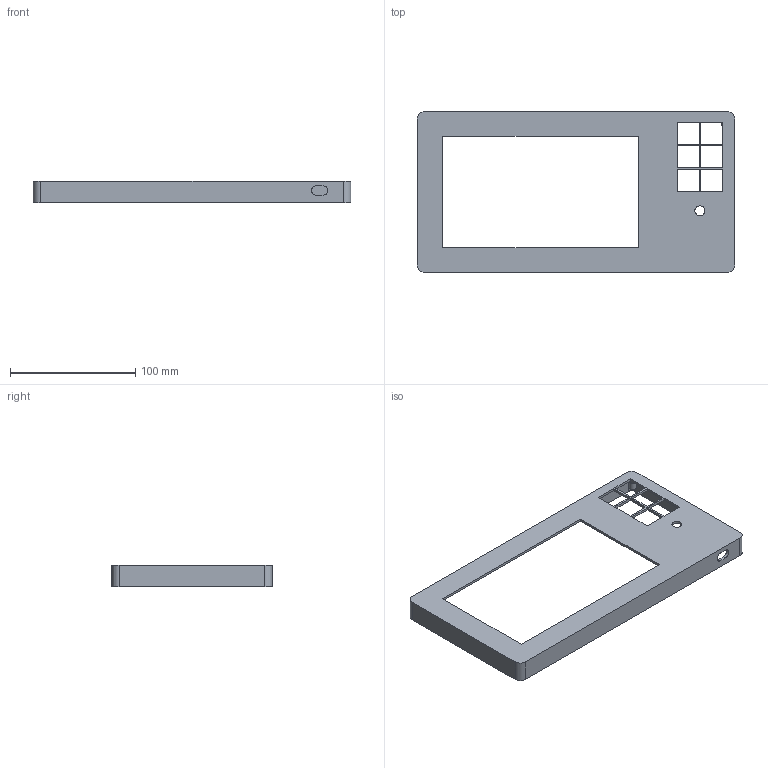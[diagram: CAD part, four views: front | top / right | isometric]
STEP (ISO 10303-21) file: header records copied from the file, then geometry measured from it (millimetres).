
FILE_DESCRIPTION(/* description */ ('STEP AP242 Edition 2','CAx-IF Rec.Pracs.---Representation and Presentation of Product Manufacturing Information (PMI)---4.0---2014-10-13','CAx-IF Rec.Pracs.---3D Tessellated Geometry---0.4---2014-09-14','2;1','CAx-IF Rec.Pracs.---User Defined Attributes---1.5---2016-08-15'),/* implementation_level */ '2;1');
FILE_NAME(/* name */ 'Part Studio 1 - Front shell',/* time_stamp */ '2026-11-26T14:54:19Z',/* author */ (''),/* organization */ (''),/* preprocessor_version */ 'ST-DEVELOPER v20',/* originating_system */ 'ONSHAPE BY PTC INC, 1.224',/* authorisation */ ' ');
FILE_SCHEMA (('AP242_MANAGED_MODEL_BASED_3D_ENGINEERING_MIM_LF { 1 0 10303 442 3 1 4 }'));
Length unit declared in the file: metre
Products named in the file (1): Front shell
Bounding box: 254 x 128.24 x 17.2 mm (x, y, z)
Volume: 61242.5 mm3; surface area: 60258.7 mm2
Topology: 1 solids, 1 shells, 73 faces, 195 edges, 130 vertices
Faces by surface type: plane 54, cylinder 19
Full cylindrical faces by diameter (mm): 2.5 x4, 6 x2, 8 x1
Entity records: 2284 total; most frequent: CARTESIAN_POINT 390, DIRECTION 376, ORIENTED_EDGE 374, EDGE_CURVE 187, LINE 146, VECTOR 146, VERTEX_POINT 129, AXIS2_PLACEMENT_3D 115
